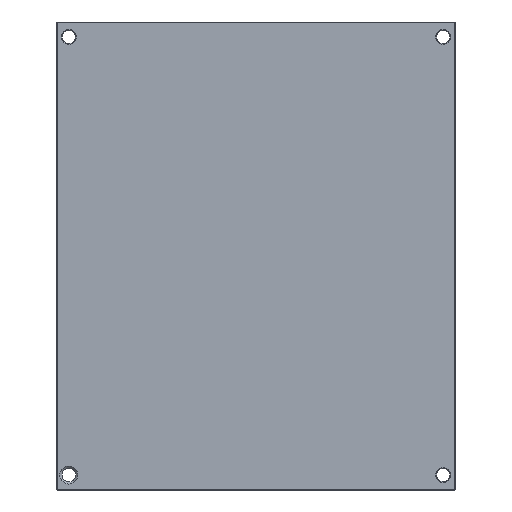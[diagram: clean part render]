
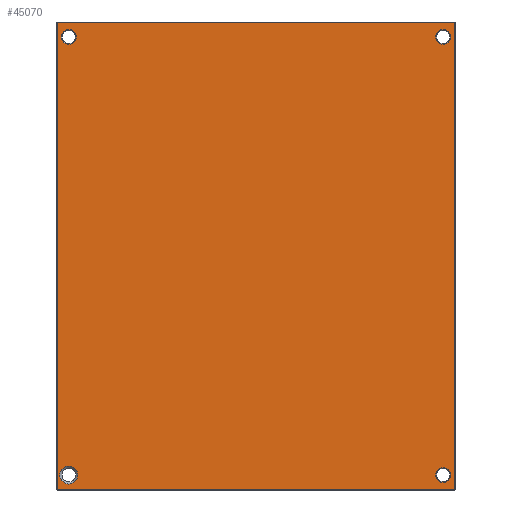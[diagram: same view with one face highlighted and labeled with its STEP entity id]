
A CAD part, front view. The second image highlights one B-rep face of the part: STEP entity #45070.
In plain terms, the highlighted planar face has unit normal (0, -1, 0).
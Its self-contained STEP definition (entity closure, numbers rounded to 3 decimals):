
#1908=FACE_BOUND('',#6707,.T.);
#1909=FACE_BOUND('',#6708,.T.);
#1910=FACE_BOUND('',#6709,.T.);
#1911=FACE_BOUND('',#6710,.T.);
#2164=PLANE('',#48090);
#3979=FACE_OUTER_BOUND('',#6706,.T.);
#6706=EDGE_LOOP('',(#31394,#31395,#31396,#31397));
#6707=EDGE_LOOP('',(#31398,#31399));
#6708=EDGE_LOOP('',(#31400,#31401));
#6709=EDGE_LOOP('',(#31402,#31403));
#6710=EDGE_LOOP('',(#31404,#31405));
#9749=LINE('',#65568,#13587);
#9751=LINE('',#65577,#13589);
#9752=LINE('',#65578,#13590);
#9753=LINE('',#65579,#13591);
#13587=VECTOR('',#53038,1000.);
#13589=VECTOR('',#53046,1000.);
#13590=VECTOR('',#53047,1000.);
#13591=VECTOR('',#53048,1000.);
#17447=CIRCLE('',#48028,4.5);
#17448=CIRCLE('',#48029,4.5);
#17455=CIRCLE('',#48039,3.75);
#17456=CIRCLE('',#48040,3.75);
#17463=CIRCLE('',#48050,3.75);
#17464=CIRCLE('',#48051,3.75);
#17471=CIRCLE('',#48061,3.75);
#17472=CIRCLE('',#48062,3.75);
#19459=VERTEX_POINT('',#65318);
#19460=VERTEX_POINT('',#65320);
#19467=VERTEX_POINT('',#65340);
#19468=VERTEX_POINT('',#65342);
#19475=VERTEX_POINT('',#65362);
#19476=VERTEX_POINT('',#65364);
#19483=VERTEX_POINT('',#65384);
#19484=VERTEX_POINT('',#65386);
#19563=VERTEX_POINT('',#65566);
#19564=VERTEX_POINT('',#65567);
#19567=VERTEX_POINT('',#65575);
#19568=VERTEX_POINT('',#65576);
#24018=EDGE_CURVE('',#19460,#19459,#17447,.T.);
#24019=EDGE_CURVE('',#19459,#19460,#17448,.T.);
#24029=EDGE_CURVE('',#19468,#19467,#17455,.T.);
#24030=EDGE_CURVE('',#19467,#19468,#17456,.T.);
#24040=EDGE_CURVE('',#19476,#19475,#17463,.T.);
#24041=EDGE_CURVE('',#19475,#19476,#17464,.T.);
#24051=EDGE_CURVE('',#19484,#19483,#17471,.T.);
#24052=EDGE_CURVE('',#19483,#19484,#17472,.T.);
#24140=EDGE_CURVE('',#19563,#19564,#9749,.T.);
#24144=EDGE_CURVE('',#19567,#19568,#9751,.T.);
#24145=EDGE_CURVE('',#19567,#19563,#9752,.T.);
#24146=EDGE_CURVE('',#19564,#19568,#9753,.T.);
#31394=ORIENTED_EDGE('',*,*,#24144,.F.);
#31395=ORIENTED_EDGE('',*,*,#24145,.T.);
#31396=ORIENTED_EDGE('',*,*,#24140,.T.);
#31397=ORIENTED_EDGE('',*,*,#24146,.T.);
#31398=ORIENTED_EDGE('',*,*,#24018,.T.);
#31399=ORIENTED_EDGE('',*,*,#24019,.T.);
#31400=ORIENTED_EDGE('',*,*,#24029,.T.);
#31401=ORIENTED_EDGE('',*,*,#24030,.T.);
#31402=ORIENTED_EDGE('',*,*,#24040,.T.);
#31403=ORIENTED_EDGE('',*,*,#24041,.T.);
#31404=ORIENTED_EDGE('',*,*,#24051,.T.);
#31405=ORIENTED_EDGE('',*,*,#24052,.T.);
#45070=ADVANCED_FACE('',(#3979,#1908,#1909,#1910,#1911),#2164,.F.);
#48028=AXIS2_PLACEMENT_3D('',#65321,#52835,#52836);
#48029=AXIS2_PLACEMENT_3D('',#65322,#52837,#52838);
#48039=AXIS2_PLACEMENT_3D('',#65343,#52860,#52861);
#48040=AXIS2_PLACEMENT_3D('',#65344,#52862,#52863);
#48050=AXIS2_PLACEMENT_3D('',#65365,#52885,#52886);
#48051=AXIS2_PLACEMENT_3D('',#65366,#52887,#52888);
#48061=AXIS2_PLACEMENT_3D('',#65387,#52910,#52911);
#48062=AXIS2_PLACEMENT_3D('',#65388,#52912,#52913);
#48090=AXIS2_PLACEMENT_3D('',#65574,#53044,#53045);
#52835=DIRECTION('center_axis',(0.,1.,0.));
#52836=DIRECTION('ref_axis',(0.,0.,1.));
#52837=DIRECTION('center_axis',(0.,1.,0.));
#52838=DIRECTION('ref_axis',(0.,0.,1.));
#52860=DIRECTION('center_axis',(0.,1.,0.));
#52861=DIRECTION('ref_axis',(0.,0.,1.));
#52862=DIRECTION('center_axis',(0.,1.,0.));
#52863=DIRECTION('ref_axis',(0.,0.,1.));
#52885=DIRECTION('center_axis',(0.,1.,0.));
#52886=DIRECTION('ref_axis',(0.,0.,1.));
#52887=DIRECTION('center_axis',(0.,1.,0.));
#52888=DIRECTION('ref_axis',(0.,0.,1.));
#52910=DIRECTION('center_axis',(0.,1.,0.));
#52911=DIRECTION('ref_axis',(0.,0.,1.));
#52912=DIRECTION('center_axis',(0.,1.,0.));
#52913=DIRECTION('ref_axis',(0.,0.,1.));
#53038=DIRECTION('',(0.,0.,-1.));
#53044=DIRECTION('center_axis',(0.,1.,0.));
#53045=DIRECTION('ref_axis',(-1.,0.,0.));
#53046=DIRECTION('',(0.,0.,-1.));
#53047=DIRECTION('',(-1.,0.,0.));
#53048=DIRECTION('',(1.,0.,0.));
#65318=CARTESIAN_POINT('',(-150.272,-23.,-172.66));
#65320=CARTESIAN_POINT('',(-150.272,-23.,-181.66));
#65321=CARTESIAN_POINT('Origin',(-150.272,-23.,-177.16));
#65322=CARTESIAN_POINT('Origin',(-150.272,-23.,-177.16));
#65340=CARTESIAN_POINT('',(37.728,-23.,-173.41));
#65342=CARTESIAN_POINT('',(37.728,-23.,-180.91));
#65343=CARTESIAN_POINT('Origin',(37.728,-23.,-177.16));
#65344=CARTESIAN_POINT('Origin',(37.728,-23.,-177.16));
#65362=CARTESIAN_POINT('',(37.728,-23.,46.59));
#65364=CARTESIAN_POINT('',(37.728,-23.,39.09));
#65365=CARTESIAN_POINT('Origin',(37.728,-23.,42.84));
#65366=CARTESIAN_POINT('Origin',(37.728,-23.,42.84));
#65384=CARTESIAN_POINT('',(-150.272,-23.,46.59));
#65386=CARTESIAN_POINT('',(-150.272,-23.,39.09));
#65387=CARTESIAN_POINT('Origin',(-150.272,-23.,42.84));
#65388=CARTESIAN_POINT('Origin',(-150.272,-23.,42.84));
#65566=CARTESIAN_POINT('',(-155.772,-23.,50.24));
#65567=CARTESIAN_POINT('',(-155.772,-23.,-184.56));
#65568=CARTESIAN_POINT('',(-155.772,-23.,50.34));
#65574=CARTESIAN_POINT('Origin',(-155.772,-23.,50.34));
#65575=CARTESIAN_POINT('',(43.228,-23.,50.24));
#65576=CARTESIAN_POINT('',(43.228,-23.,-184.56));
#65577=CARTESIAN_POINT('',(43.228,-23.,50.34));
#65578=CARTESIAN_POINT('',(-155.772,-23.,50.24));
#65579=CARTESIAN_POINT('',(-155.772,-23.,-184.56));
